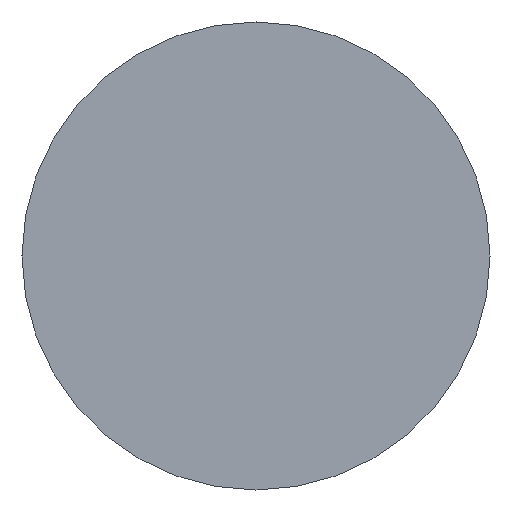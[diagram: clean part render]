
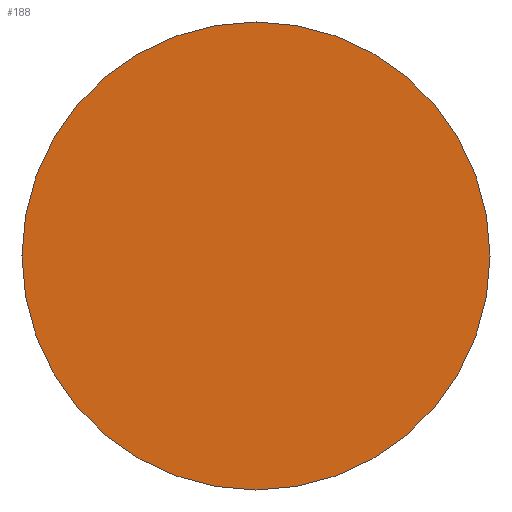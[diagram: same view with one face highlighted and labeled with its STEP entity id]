
A CAD part, left-side view. The second image highlights one B-rep face of the part: STEP entity #188.
In plain terms, the highlighted planar face has unit normal (-1, 0, 0).
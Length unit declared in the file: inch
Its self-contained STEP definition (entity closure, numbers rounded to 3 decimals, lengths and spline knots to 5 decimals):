
#16 = CARTESIAN_POINT ( 'NONE',  ( 0., 0., 0. ) ) ;
#23 = DIRECTION ( 'NONE',  ( 0., -1., 0. ) ) ;
#24 = DIRECTION ( 'NONE',  ( -1., 0., 0. ) ) ;
#25 = AXIS2_PLACEMENT_3D ( 'NONE', #16, #24, #23 ) ;
#26 = CIRCLE ( 'NONE', #25, 0.46875 ) ;
#36 = FACE_OUTER_BOUND ( 'NONE', #184, .T. ) ;
#51 = CARTESIAN_POINT ( 'NONE',  ( 0., 0.46875, 0. ) ) ;
#54 = DIRECTION ( 'NONE',  ( 0., 1., 0. ) ) ;
#55 = DIRECTION ( 'NONE',  ( 1., 0., 0. ) ) ;
#56 = CARTESIAN_POINT ( 'NONE',  ( 0., 0., 0. ) ) ;
#57 = AXIS2_PLACEMENT_3D ( 'NONE', #56, #55, #54 ) ;
#58 = PLANE ( 'NONE',  #57 ) ;
#78 = CARTESIAN_POINT ( 'NONE',  ( 0., -0.46875, 0. ) ) ;
#87 = DIRECTION ( 'NONE',  ( 0., -1., 0. ) ) ;
#88 = DIRECTION ( 'NONE',  ( -1., 0., 0. ) ) ;
#89 = CARTESIAN_POINT ( 'NONE',  ( 0., 0., 0. ) ) ;
#90 = AXIS2_PLACEMENT_3D ( 'NONE', #89, #88, #87 ) ;
#91 = CIRCLE ( 'NONE', #90, 0.46875 ) ;
#171 = VERTEX_POINT ( 'NONE', #78 ) ;
#175 = EDGE_CURVE ( 'NONE', #171, #181, #91, .T. ) ;
#181 = VERTEX_POINT ( 'NONE', #51 ) ;
#184 = EDGE_LOOP ( 'NONE', ( #194, #197 ) ) ;
#188 = ADVANCED_FACE ( 'NONE', ( #36 ), #58, .F. ) ;
#194 = ORIENTED_EDGE ( 'NONE', *, *, #175, .T. ) ;
#197 = ORIENTED_EDGE ( 'NONE', *, *, #200, .T. ) ;
#200 = EDGE_CURVE ( 'NONE', #181, #171, #26, .T. ) ;
